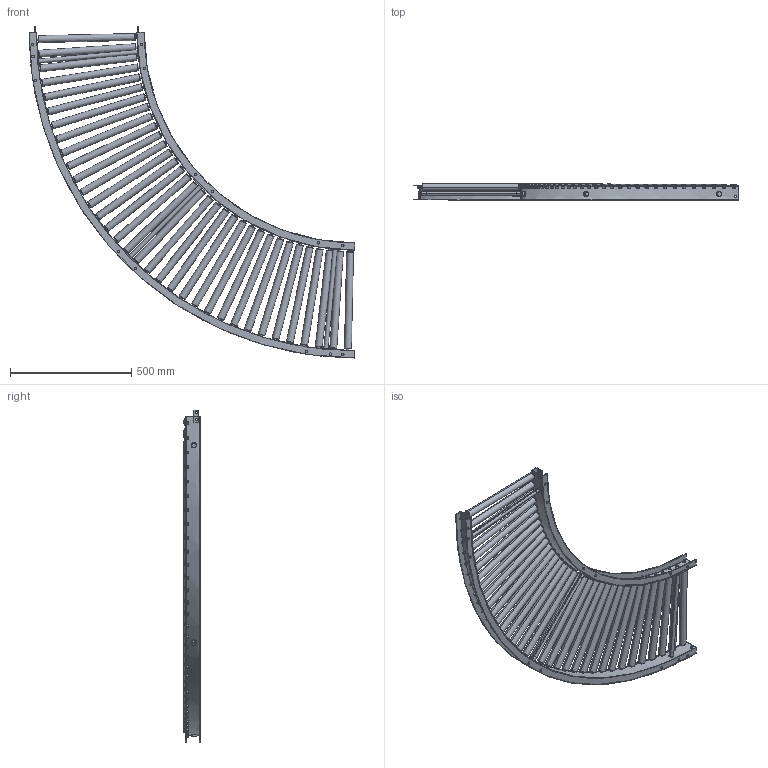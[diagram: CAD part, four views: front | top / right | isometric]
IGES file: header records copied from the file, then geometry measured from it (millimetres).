
Start section: SolidWorks IGES file using analytic representation for surfaces
Global section: file name: C:\Users\0656\Desktop\変換ツール\iges変換\R-2812P_C.igs; native system: SolidWorks 2023; preprocessor: SolidWorks 2023; author: 0656; date: 240315.111733; units: millimetre
Bounding box: 1345 x 66.3 x 1370.08 mm (x, y, z)
Surface area: 3214921.8 mm2 (no closed solid volume)
Topology: 0 solids, 0 shells, 1298 faces, 25804 edges, 25804 vertices
Faces by surface type: revolution 680, bspline 618
